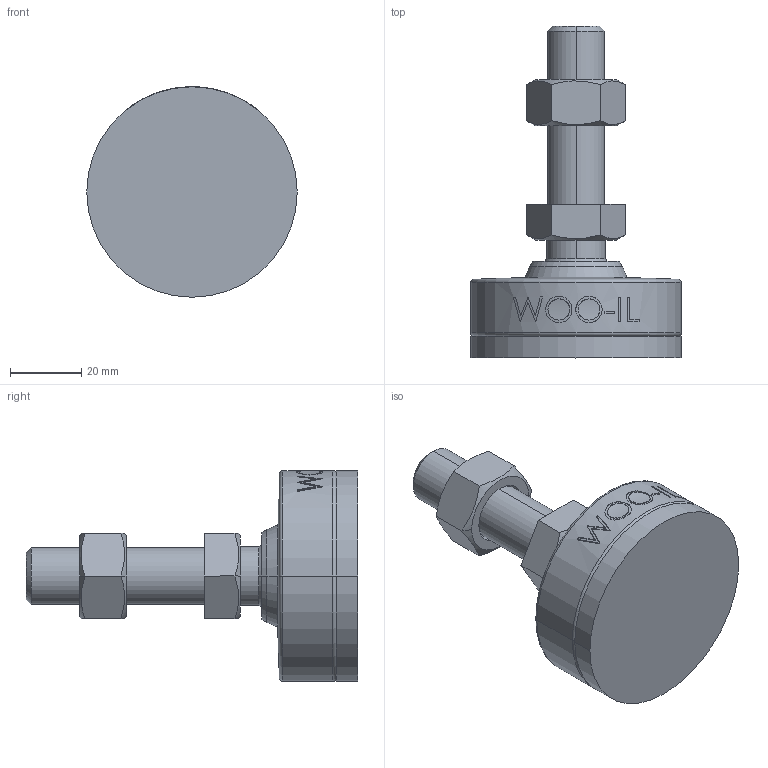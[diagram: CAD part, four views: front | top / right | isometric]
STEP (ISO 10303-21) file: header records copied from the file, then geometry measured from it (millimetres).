
FILE_DESCRIPTION (( 'STEP AP214' ), '1' );
FILE_NAME ('MFNR59-M16-50.step', '2021-02-22T09:07:22', ( '' ), ( '' ), 'SwSTEP 2.0', 'SolidWorks 2019', '' );
FILE_SCHEMA (( 'AUTOMOTIVE_DESIGN' ));
Length unit declared in the file: millimetre
Products named in the file (2): MFNR59-M16-50
Bounding box: 59 x 93 x 59 mm (x, y, z)
Volume: 83359.1 mm3; surface area: 16350.4 mm2
Topology: 2 solids, 2 shells, 105 faces, 245 edges, 156 vertices
Faces by surface type: plane 47, cone 18, cylinder 18, bspline 16, torus 4, sphere 2
Entity records: 4515 total; most frequent: CARTESIAN_POINT 2178, ORIENTED_EDGE 490, DIRECTION 437, EDGE_CURVE 245, AXIS2_PLACEMENT_3D 167, VERTEX_POINT 156, EDGE_LOOP 119, FACE_OUTER_BOUND 105
